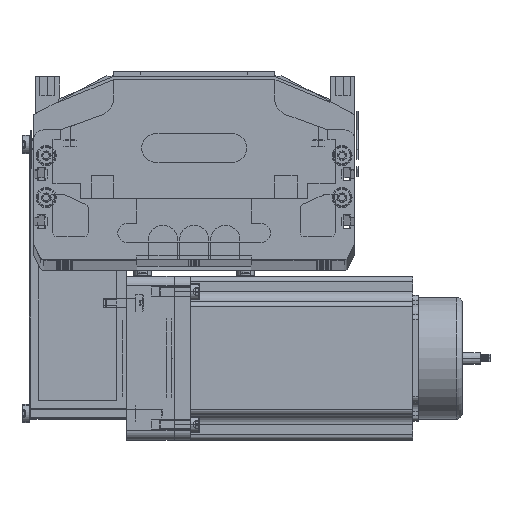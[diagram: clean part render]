
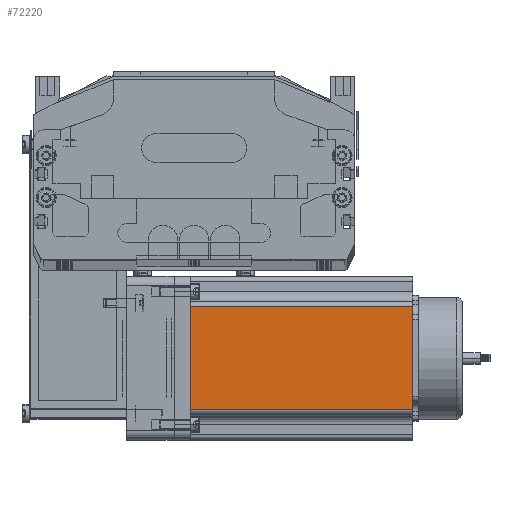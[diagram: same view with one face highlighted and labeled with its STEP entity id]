
A CAD part, top view. The second image highlights one B-rep face of the part: STEP entity #72220.
In plain terms, the highlighted planar face has unit normal (0, 0, 1) as drawn and (0, -1, 0) by its records, which use the part's own axes.
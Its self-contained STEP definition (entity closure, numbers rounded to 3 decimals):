
#37860 = CARTESIAN_POINT ( 'NONE',  ( 69.74, 0., 0. ) ) ;
#38317 = LINE ( 'NONE', #38335, #38363 ) ;
#38324 = LINE ( 'NONE', #38368, #38365 ) ;
#38325 = CARTESIAN_POINT ( 'NONE',  ( 69.74, 0., 116.5 ) ) ;
#38335 = CARTESIAN_POINT ( 'NONE',  ( 0., 0., 116.5 ) ) ;
#38344 = CARTESIAN_POINT ( 'NONE',  ( 16.16, 0., 116.5 ) ) ;
#38352 = DIRECTION ( 'NONE',  ( 0., 0., -1. ) ) ;
#38353 = VECTOR ( 'NONE', #38352, 1000. ) ;
#38354 = CARTESIAN_POINT ( 'NONE',  ( 16.16, 0., 116.5 ) ) ;
#38362 = DIRECTION ( 'NONE',  ( 1., 0., 0. ) ) ;
#38363 = VECTOR ( 'NONE', #38362, 1000. ) ;
#38364 = DIRECTION ( 'NONE',  ( 0., 0., 1. ) ) ;
#38365 = VECTOR ( 'NONE', #38364, 1000. ) ;
#38367 = LINE ( 'NONE', #38354, #38353 ) ;
#38368 = CARTESIAN_POINT ( 'NONE',  ( 69.74, 0., 116.5 ) ) ;
#57231 = PLANE ( 'NONE',  #57262 ) ;
#57246 = DIRECTION ( 'NONE',  ( 0., 0., 1. ) ) ;
#57247 = DIRECTION ( 'NONE',  ( 0., 1., 0. ) ) ;
#57248 = CARTESIAN_POINT ( 'NONE',  ( 0., 0., 116.5 ) ) ;
#57259 = FACE_OUTER_BOUND ( 'NONE', #72311, .T. ) ;
#57262 = AXIS2_PLACEMENT_3D ( 'NONE', #57248, #57247, #57246 ) ;
#57575 = DIRECTION ( 'NONE',  ( 1., 0., 0. ) ) ;
#57576 = VECTOR ( 'NONE', #57575, 1000. ) ;
#57577 = CARTESIAN_POINT ( 'NONE',  ( 0., 0., 0. ) ) ;
#57579 = LINE ( 'NONE', #57577, #57576 ) ;
#57735 = CARTESIAN_POINT ( 'NONE',  ( 16.16, 0., 0. ) ) ;
#72102 = ORIENTED_EDGE ( 'NONE', *, *, #72372, .T. ) ;
#72220 = ADVANCED_FACE ( 'NONE', ( #57259 ), #57231, .F. ) ;
#72311 = EDGE_LOOP ( 'NONE', ( #72102, #72972, #73004, #73001 ) ) ;
#72372 = EDGE_CURVE ( 'NONE', #72428, #72866, #57579, .T. ) ;
#72428 = VERTEX_POINT ( 'NONE', #57735 ) ;
#72866 = VERTEX_POINT ( 'NONE', #37860 ) ;
#72972 = ORIENTED_EDGE ( 'NONE', *, *, #73005, .T. ) ;
#73001 = ORIENTED_EDGE ( 'NONE', *, *, #73009, .T. ) ;
#73003 = VERTEX_POINT ( 'NONE', #38325 ) ;
#73004 = ORIENTED_EDGE ( 'NONE', *, *, #73006, .F. ) ;
#73005 = EDGE_CURVE ( 'NONE', #72866, #73003, #38324, .T. ) ;
#73006 = EDGE_CURVE ( 'NONE', #73018, #73003, #38317, .T. ) ;
#73009 = EDGE_CURVE ( 'NONE', #73018, #72428, #38367, .T. ) ;
#73018 = VERTEX_POINT ( 'NONE', #38344 ) ;
